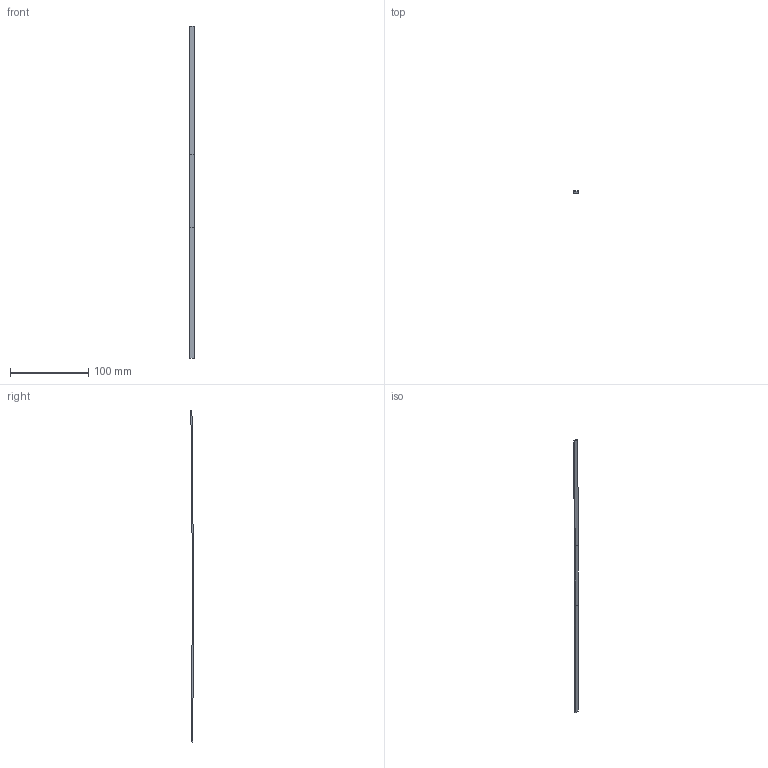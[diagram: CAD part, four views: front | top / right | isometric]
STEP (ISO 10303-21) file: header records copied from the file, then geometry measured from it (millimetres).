
FILE_DESCRIPTION(/* description */ ('STEP AP242 Edition 2','CAx-IF Rec.Pracs.---Representation and Presentation of Product Manufacturing Information (PMI)---4.0---2014-10-13','CAx-IF Rec.Pracs.---3D Tessellated Geometry---0.4---2014-09-14','2;1','CAx-IF Rec.Pracs.---User Defined Attributes---1.5---2016-08-15'),/* implementation_level */ '2;1');
FILE_NAME(/* name */ 'Final Build - fake belt',/* time_stamp */ '2026-08-31T23:26:10Z',/* author */ (''),/* organization */ (''),/* preprocessor_version */ 'ST-DEVELOPER v20',/* originating_system */ 'ONSHAPE BY PTC INC, 1.220',/* authorisation */ ' ');
FILE_SCHEMA (('AP242_MANAGED_MODEL_BASED_3D_ENGINEERING_MIM_LF { 1 0 10303 442 3 1 4 }'));
Length unit declared in the file: metre
Products named in the file (1): fake belt
Bounding box: 6 x 2.92 x 425.01 mm (x, y, z)
Volume: 3544.6 mm3; surface area: 6298.4 mm2
Topology: 1 solids, 1 shells, 10 faces, 24 edges, 16 vertices
Faces by surface type: plane 10
Entity records: 310 total; most frequent: CARTESIAN_POINT 51, ORIENTED_EDGE 48, DIRECTION 46, EDGE_CURVE 24, LINE 24, VECTOR 24, VERTEX_POINT 16, AXIS2_PLACEMENT_3D 11
